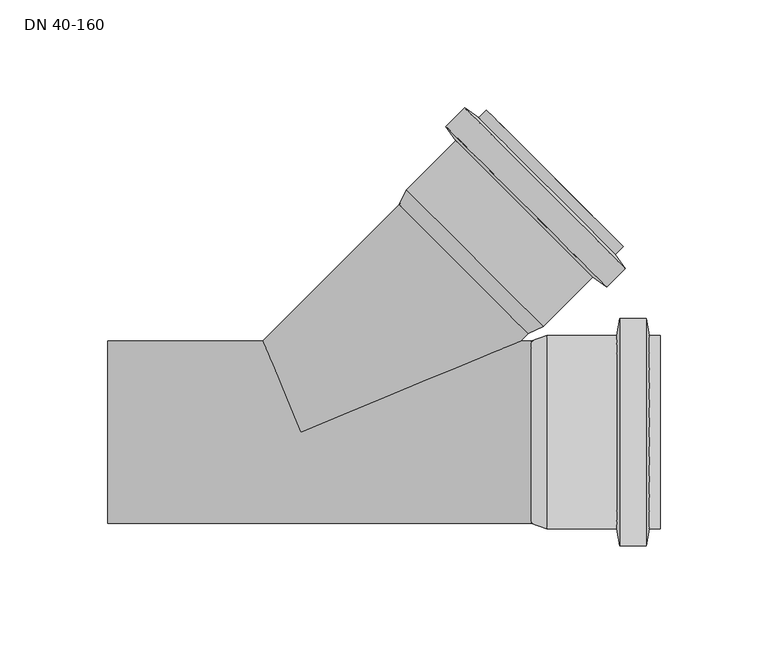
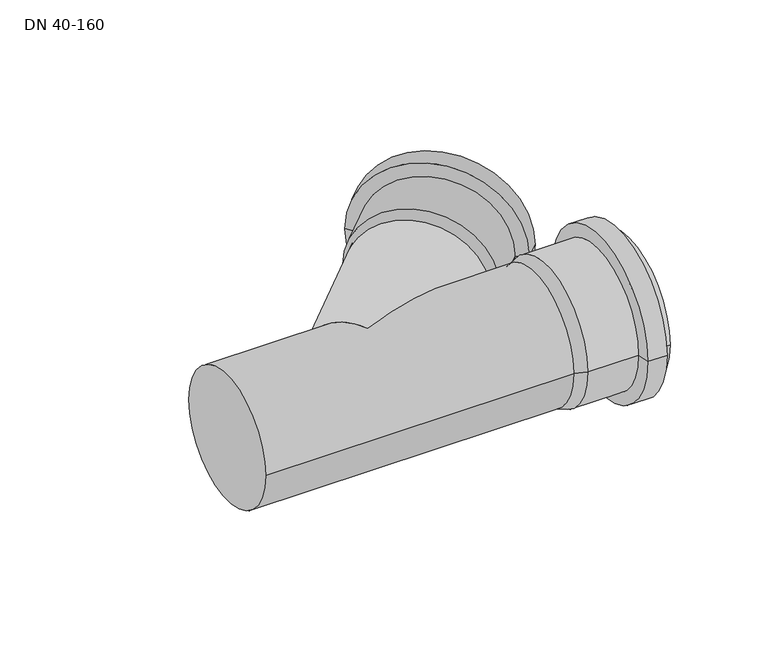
"""IFC4 building model written with IfcOpenShell, lengths in millimetres: pipe fitting geometry, ZZZ_Master 3+ trójnik-sh_Pipelife : DN 40-160."""

from ifc_helpers import new_model, si_unit, frame, origin, place, context, project, spatial, polyline, circle_curve, ellipse_curve, source, transform, mapped, element, save
from ifc_brep_helpers import plane_surface, cylinder_surface, revolved_surface, advanced_brep


def dn_40_160_6bd9d589(model_context):
    return source(origin(), model_context, "Body", "AdvancedBrep", [
        advanced_brep(
        [(106.9, 42.2, 0.0), (106.9, -42.2, 0.0), (166.5, -42.2, 0.0), (166.5, 42.2, 0.0), (114.0434413, 44.8, 0.0), (114.0434413, -44.8, 0.0), (146.4, 44.8, 0.0), (146.4, -44.8, 0.0), (147.788575, 52.675, 0.0), (147.788575, -52.675, 0.0), (160.011425, 52.675, 0.0), (160.011425, -52.675, 0.0), (161.4, 44.8, 0.0), (161.4, -44.8, 0.0), (166.5, 44.8, 0.0), (166.5, -44.8, 0.0)],
        [
            (0, 1, circle_curve(frame((106.9, 0.0, 0.0), z_axis=(-1.0, 0.0, 0.0), x_axis=(0.0, -1.0000000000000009, 0.0)), 42.2)),
            (1, 2),
            (2, 3, circle_curve(frame((166.5, 0.0, 0.0), z_axis=(1.0, 0.0, 0.0), x_axis=(0.0, -1.0000000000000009, 0.0)), 42.2)),
            (3, 0),
            (1, 0, circle_curve(frame((106.9, 0.0, 0.0), z_axis=(-1.0, 0.0, 0.0), x_axis=(0.0, -1.0000000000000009, 0.0)), 42.2)),
            (3, 2, circle_curve(frame((166.5, 0.0, 0.0), z_axis=(1.0, 0.0, 0.0), x_axis=(0.0, -1.0000000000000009, 0.0)), 42.2)),
            (4, 5, circle_curve(frame((114.0434413, 0.0, 0.0), z_axis=(-1.0, 0.0, 0.0), x_axis=(0.0, -1.0000000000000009, 0.0)), 44.8)),
            (5, 1),
            (0, 4),
            (5, 4, circle_curve(frame((114.0434413, 0.0, 0.0), z_axis=(-1.0, 0.0, 0.0), x_axis=(0.0, -1.0000000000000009, 0.0)), 44.8)),
            (6, 7, circle_curve(frame((146.4, 0.0, 0.0), z_axis=(-1.0, 0.0, 0.0), x_axis=(0.0, -1.0000000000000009, 0.0)), 44.8)),
            (7, 5),
            (4, 6),
            (7, 6, circle_curve(frame((146.4, 0.0, 0.0), z_axis=(-1.0, 0.0, 0.0), x_axis=(0.0, -1.0000000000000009, 0.0)), 44.8)),
            (8, 9, circle_curve(frame((147.788575, 0.0, 0.0), z_axis=(-1.0, 0.0, 0.0), x_axis=(0.0, -1.0000000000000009, 0.0)), 52.675)),
            (9, 7),
            (6, 8),
            (9, 8, circle_curve(frame((147.788575, 0.0, 0.0), z_axis=(-1.0, 0.0, 0.0), x_axis=(0.0, -1.0000000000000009, 0.0)), 52.675)),
            (10, 11, circle_curve(frame((160.011425, 0.0, 0.0), z_axis=(-1.0, 0.0, 0.0), x_axis=(0.0, -1.0000000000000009, 0.0)), 52.675)),
            (11, 9),
            (8, 10),
            (11, 10, circle_curve(frame((160.011425, 0.0, 0.0), z_axis=(-1.0, 0.0, 0.0), x_axis=(0.0, -1.0000000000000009, 0.0)), 52.675)),
            (12, 13, circle_curve(frame((161.4, 0.0, 0.0), z_axis=(-1.0, 0.0, 0.0), x_axis=(0.0, -1.0000000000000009, 0.0)), 44.8)),
            (13, 11),
            (10, 12),
            (13, 12, circle_curve(frame((161.4, 0.0, 0.0), z_axis=(-1.0, 0.0, 0.0), x_axis=(0.0, -1.0000000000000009, 0.0)), 44.8)),
            (14, 15, circle_curve(frame((166.5, 0.0, 0.0), z_axis=(-1.0, 0.0, 0.0), x_axis=(0.0, -1.0000000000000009, 0.0)), 44.8)),
            (15, 13),
            (12, 14),
            (15, 14, circle_curve(frame((166.5, 0.0, 0.0), z_axis=(-1.0, 0.0, 0.0), x_axis=(0.0, -1.0000000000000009, 0.0)), 44.8)),
            (2, 15),
            (14, 3),
        ],
        [
            revolved_surface(polyline([(166.5, -42.20000000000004, 0.0), (106.89999999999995, -42.20000000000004, 0.0)]), (176.5, 0.0, 0.0), (1.0000000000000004, 0.0, 0.0)),
            revolved_surface(polyline([(106.9, -42.2, 0.0), (114.0434413, -44.8, 0.0)]), (176.5, 0.0, 0.0), (1.0000000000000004, 0.0, 0.0)),
            cylinder_surface(frame((176.5, 0.0, 0.0), z_axis=(1.0000000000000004, 0.0, 0.0), x_axis=(0.0, -1.0000000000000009, 0.0)), 44.8),
            revolved_surface(polyline([(146.4, -44.8, 0.0), (147.788575, -52.675, 0.0)]), (176.5, 0.0, 0.0), (1.0000000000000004, 0.0, 0.0)),
            cylinder_surface(frame((176.5, 0.0, 0.0), z_axis=(1.0000000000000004, 0.0, 0.0), x_axis=(0.0, -1.0000000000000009, 0.0)), 52.675),
            revolved_surface(polyline([(160.011425, -52.675, 0.0), (161.4, -44.8, 0.0)]), (176.5, 0.0, 0.0), (1.0000000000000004, 0.0, 0.0)),
            plane_surface(frame((166.5, 0.0, 0.0), z_axis=(1.0, 0.0, 0.0), x_axis=(0.0, -1.0, 0.0))),
        ],
        [
            (0, [[1, 2, 3, 4]]),
            (0, [[5, -4, 6, -2]]),
            (1, [[7, 8, -1, 9]]),
            (1, [[10, -9, -5, -8]]),
            (2, [[11, 12, -7, 13]]),
            (2, [[14, -13, -10, -12]]),
            (3, [[15, 16, -11, 17]]),
            (3, [[18, -17, -14, -16]]),
            (4, [[19, 20, -15, 21]]),
            (4, [[22, -21, -18, -20]]),
            (5, [[23, 24, -19, 25]]),
            (5, [[26, -25, -22, -24]]),
            (2, [[27, 28, -23, 29]]),
            (2, [[30, -29, -26, -28]]),
            (6, [[-3, 31, -27, 32]]),
            (6, [[-6, -32, -30, -31]]),
        ],
    ),
        advanced_brep(
        [(45.7498087, 105.4296211, 0.0), (105.4296211, 45.7498087, 0.0), (147.5731852, 87.8933729, 0.0), (87.8933729, 147.5731852, 0.0), (48.9625069, 112.3192745, 0.0), (112.3192745, 48.9625069, 0.0), (71.842049, 135.1988166, 0.0), (135.1988166, 71.842049, 0.0), (67.2554538, 141.7491532, 0.0), (141.7491532, 67.2554538, 0.0), (75.898314, 150.3920134, 0.0), (150.3920134, 75.898314, 0.0), (82.4486507, 145.8054183, 0.0), (145.8054183, 82.4486507, 0.0), (86.0548953, 149.4116629, 0.0), (149.4116629, 86.0548953, 0.0)],
        [
            (0, 1, circle_curve(frame((75.5897149, 75.5897149, 0.0), z_axis=(-0.7071067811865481, -0.7071067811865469, 0.0), x_axis=(0.7071067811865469, -0.7071067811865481, 0.0)), 42.2)),
            (1, 2),
            (2, 3, circle_curve(frame((117.7332791, 117.7332791, 0.0), z_axis=(0.7071067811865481, 0.7071067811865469, 0.0), x_axis=(0.7071067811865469, -0.7071067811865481, 0.0)), 42.2)),
            (3, 0),
            (1, 0, circle_curve(frame((75.5897149, 75.5897149, 0.0), z_axis=(-0.7071067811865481, -0.7071067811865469, 0.0), x_axis=(0.7071067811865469, -0.7071067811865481, 0.0)), 42.2)),
            (3, 2, circle_curve(frame((117.7332791, 117.7332791, 0.0), z_axis=(0.7071067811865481, 0.7071067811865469, 0.0), x_axis=(0.7071067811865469, -0.7071067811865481, 0.0)), 42.2)),
            (4, 5, circle_curve(frame((80.6408907, 80.6408907, 0.0), z_axis=(-0.7071067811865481, -0.7071067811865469, 0.0), x_axis=(0.7071067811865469, -0.7071067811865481, 0.0)), 44.8)),
            (5, 1),
            (0, 4),
            (5, 4, circle_curve(frame((80.6408907, 80.6408907, 0.0), z_axis=(-0.7071067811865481, -0.7071067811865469, 0.0), x_axis=(0.7071067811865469, -0.7071067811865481, 0.0)), 44.8)),
            (6, 7, circle_curve(frame((103.5204328, 103.5204328, 0.0), z_axis=(-0.7071067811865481, -0.7071067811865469, 0.0), x_axis=(0.7071067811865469, -0.7071067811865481, 0.0)), 44.8)),
            (7, 5),
            (4, 6),
            (7, 6, circle_curve(frame((103.5204328, 103.5204328, 0.0), z_axis=(-0.7071067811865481, -0.7071067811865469, 0.0), x_axis=(0.7071067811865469, -0.7071067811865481, 0.0)), 44.8)),
            (8, 9, circle_curve(frame((104.5023035, 104.5023035, 0.0), z_axis=(-0.7071067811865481, -0.7071067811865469, 0.0), x_axis=(0.7071067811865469, -0.7071067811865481, 0.0)), 52.675)),
            (9, 7),
            (6, 8),
            (9, 8, circle_curve(frame((104.5023035, 104.5023035, 0.0), z_axis=(-0.7071067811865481, -0.7071067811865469, 0.0), x_axis=(0.7071067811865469, -0.7071067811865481, 0.0)), 52.675)),
            (10, 11, circle_curve(frame((113.1451637, 113.1451637, 0.0), z_axis=(-0.7071067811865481, -0.7071067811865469, 0.0), x_axis=(0.7071067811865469, -0.7071067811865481, 0.0)), 52.675)),
            (11, 9),
            (8, 10),
            (11, 10, circle_curve(frame((113.1451637, 113.1451637, 0.0), z_axis=(-0.7071067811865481, -0.7071067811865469, 0.0), x_axis=(0.7071067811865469, -0.7071067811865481, 0.0)), 52.675)),
            (12, 13, circle_curve(frame((114.1270345, 114.1270345, 0.0), z_axis=(-0.7071067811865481, -0.7071067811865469, 0.0), x_axis=(0.7071067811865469, -0.7071067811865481, 0.0)), 44.8)),
            (13, 11),
            (10, 12),
            (13, 12, circle_curve(frame((114.1270345, 114.1270345, 0.0), z_axis=(-0.7071067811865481, -0.7071067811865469, 0.0), x_axis=(0.7071067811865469, -0.7071067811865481, 0.0)), 44.8)),
            (14, 15, circle_curve(frame((117.7332791, 117.7332791, 0.0), z_axis=(-0.7071067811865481, -0.7071067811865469, 0.0), x_axis=(0.7071067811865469, -0.7071067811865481, 0.0)), 44.8)),
            (15, 13),
            (12, 14),
            (15, 14, circle_curve(frame((117.7332791, 117.7332791, 0.0), z_axis=(-0.7071067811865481, -0.7071067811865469, 0.0), x_axis=(0.7071067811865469, -0.7071067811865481, 0.0)), 44.8)),
            (2, 15),
            (14, 3),
        ],
        [
            revolved_surface(polyline([(147.57318526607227, 87.89337293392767, 0.0), (105.42962106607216, 45.74980873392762, 0.0)]), (124.8043469, 124.8043469, 0.0), (0.7071067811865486, 0.7071067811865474, 0.0)),
            revolved_surface(polyline([(105.4296211, 45.7498087, 0.0), (112.3192745, 48.9625069, 0.0)]), (124.8043469, 124.8043469, 0.0), (0.7071067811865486, 0.7071067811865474, 0.0)),
            cylinder_surface(frame((124.8043469, 124.8043469, 0.0), z_axis=(0.7071067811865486, 0.7071067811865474, 0.0), x_axis=(0.7071067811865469, -0.7071067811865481, 0.0)), 44.8),
            revolved_surface(polyline([(135.1988166, 71.842049, 0.0), (141.7491532, 67.2554538, 0.0)]), (124.8043469, 124.8043469, 0.0), (0.7071067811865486, 0.7071067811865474, 0.0)),
            cylinder_surface(frame((124.8043469, 124.8043469, 0.0), z_axis=(0.7071067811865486, 0.7071067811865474, 0.0), x_axis=(0.7071067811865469, -0.7071067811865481, 0.0)), 52.675),
            revolved_surface(polyline([(150.3920134, 75.898314, 0.0), (145.8054183, 82.4486507, 0.0)]), (124.8043469, 124.8043469, 0.0), (0.7071067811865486, 0.7071067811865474, 0.0)),
            plane_surface(frame((117.7332791, 117.7332791, 0.0), z_axis=(0.7071067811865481, 0.7071067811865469, 0.0), x_axis=(0.7071067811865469, -0.7071067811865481, 0.0))),
        ],
        [
            (0, [[1, 2, 3, 4]]),
            (0, [[5, -4, 6, -2]]),
            (1, [[7, 8, -1, 9]]),
            (1, [[10, -9, -5, -8]]),
            (2, [[11, 12, -7, 13]]),
            (2, [[14, -13, -10, -12]]),
            (3, [[15, 16, -11, 17]]),
            (3, [[18, -17, -14, -16]]),
            (4, [[19, 20, -15, 21]]),
            (4, [[22, -21, -18, -20]]),
            (5, [[23, 24, -19, 25]]),
            (5, [[26, -25, -22, -24]]),
            (2, [[27, 28, -23, 29]]),
            (2, [[30, -29, -26, -28]]),
            (6, [[-3, 31, -27, 32]]),
            (6, [[-6, -32, -30, -31]]),
        ],
    ),
        advanced_brep(
        [(-89.3, -42.2, 0.0), (-89.3, 42.2, 0.0), (106.9, -42.2, 0.0), (106.9, 0.0, 42.2), (106.9, 42.2, 0.0), (101.8798123, 42.2, 0.0), (0.0, 0.0, 42.2), (-17.4798123, 42.2, 0.0), (0.0, 0.0, -42.2), (106.9, 0.0, -42.2), (105.4296211, 45.7498087, 0.0), (45.7498087, 105.4296211, 0.0)],
        [
            (0, 1, circle_curve(frame((-89.3, 0.0, 0.0), z_axis=(-1.0, 0.0, 0.0), x_axis=(0.0, 1.0, 0.0)), 42.2)),
            (1, 0, circle_curve(frame((-89.3, 0.0, 0.0), z_axis=(-1.0, 0.0, 0.0), x_axis=(0.0, 1.0, 0.0)), 42.2)),
            (0, 2),
            (2, 3, circle_curve(frame((106.9, 0.0, 0.0), z_axis=(-1.0, 0.0, 0.0), x_axis=(0.0, 1.0, 0.0)), 42.2)),
            (3, 4, circle_curve(frame((106.9, 0.0, 0.0), z_axis=(-1.0, 0.0, 0.0), x_axis=(0.0, 1.0, 0.0)), 42.2)),
            (4, 5),
            (5, 6, ellipse_curve(frame((0.0, 0.0, 0.0), z_axis=(0.3826834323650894, -0.923879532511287, 0.0), x_axis=(-0.923879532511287, -0.38268343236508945, 0.0)), 110.2739142, 42.2)),
            (6, 7, ellipse_curve(frame((0.0, 0.0, 0.0), z_axis=(-0.923879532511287, -0.3826834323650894, 0.0), x_axis=(-0.3826834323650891, 0.9238795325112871, 0.0)), 45.6769509, 42.2)),
            (7, 1),
            (7, 8, ellipse_curve(frame((0.0, 0.0, 0.0), z_axis=(-0.923879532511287, -0.3826834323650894, 0.0), x_axis=(-0.3826834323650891, 0.9238795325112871, 0.0)), 45.6769509, 42.2)),
            (8, 5, ellipse_curve(frame((0.0, 0.0, 0.0), z_axis=(0.3826834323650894, -0.923879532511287, 0.0), x_axis=(-0.923879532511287, -0.38268343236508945, 0.0)), 110.2739142, 42.2)),
            (4, 9, circle_curve(frame((106.9, 0.0, 0.0), z_axis=(-1.0, 0.0, 0.0), x_axis=(0.0, 1.0, 0.0)), 42.2)),
            (9, 2, circle_curve(frame((106.9, 0.0, 0.0), z_axis=(-1.0, 0.0, 0.0), x_axis=(0.0, 1.0, 0.0)), 42.2)),
            (10, 11, circle_curve(frame((75.5897149, 75.5897149, 0.0), z_axis=(0.7071067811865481, 0.7071067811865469, 0.0), x_axis=(-0.7071067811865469, 0.7071067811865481, 0.0)), 42.2)),
            (11, 10, circle_curve(frame((75.5897149, 75.5897149, 0.0), z_axis=(0.7071067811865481, 0.7071067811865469, 0.0), x_axis=(-0.7071067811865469, 0.7071067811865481, 0.0)), 42.2)),
            (11, 7),
            (5, 10),
        ],
        [
            plane_surface(frame((-89.3, 0.0, 0.0), z_axis=(-1.0, 0.0, 0.0), x_axis=(0.0, 0.0, 1.0))),
            cylinder_surface(frame((-89.3, 0.0, 0.0), z_axis=(-1.0, 0.0, 0.0), x_axis=(0.0, 1.0, 0.0)), 42.2),
            plane_surface(frame((75.5897149, 75.5897149, 0.0), z_axis=(0.7071067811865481, 0.7071067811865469, 0.0), x_axis=(0.0, 0.0, 1.0))),
            cylinder_surface(frame((0.0, 0.0, 0.0), z_axis=(-0.7071067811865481, -0.7071067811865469, 0.0), x_axis=(-0.7071067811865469, 0.7071067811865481, 0.0)), 42.2),
            plane_surface(frame((106.9, 0.0, -42.2), z_axis=(1.0, 0.0, 0.0), x_axis=(0.0, -1.0, 0.0))),
        ],
        [
            (0, [[1, 2]]),
            (1, [[-1, 3, 4, 5, 6, 7, 8, 9]]),
            (1, [[-2, -9, 10, 11, -6, 12, 13, -3]]),
            (2, [[14, 15]]),
            (3, [[-15, 16, -8, -7, 17]]),
            (3, [[-14, -17, -11, -10, -16]]),
            (4, [[-4, -13, -12, -5]]),
        ],
    ),
    ])


if __name__ == "__main__":
    model = new_model("IFC4")
    model_context = context("Model", 3, world=origin())
    ifc_project = project(units=[si_unit("LENGTHUNIT", "METRE", prefix="MILLI")], contexts=[model_context])
    site = spatial("IfcSite", under=ifc_project)
    building = spatial("IfcBuilding", under=site)
    placement = place(None, origin())
    dn_40_160_shape = dn_40_160_6bd9d589(model_context)
    element("IfcPipeFitting", 1, ObjectType="ZZZ_Master 3+ trójnik-sh_Pipelife : DN 40-160", at=placement, inside=building, context=model_context, shape_type="MappedRepresentation", body=[
        mapped(dn_40_160_shape, transform((0.0, 0.0, 0.0), x_axis=(1.0, 0.0, 0.0), y_axis=(0.0, 1.0, 0.0), z_axis=(0.0, 0.0, 1.0))),
    ])
    save(model, "model.ifc")
